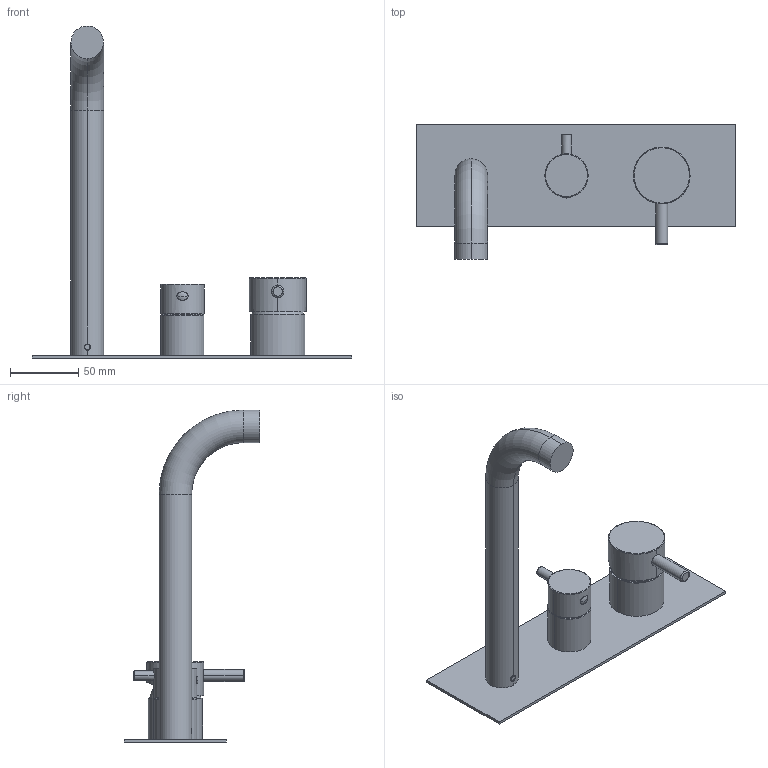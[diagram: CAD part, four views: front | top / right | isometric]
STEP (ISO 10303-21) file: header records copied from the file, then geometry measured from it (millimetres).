
FILE_DESCRIPTION((''),'2;1');
FILE_NAME('12528AV2_SW0001','2025-02-26T16:20:40',('carloff'),(''),'CREO PARAMETRIC BY PTC INC, 2022014','CREO PARAMETRIC BY PTC INC, 2022014','');
FILE_SCHEMA(('CONFIG_CONTROL_DESIGN'));
Length unit declared in the file: millimetre
Products named in the file (1): 12528AV2_SW0001
Bounding box: 235 x 99.5 x 244 mm (x, y, z)
Volume: 258864 mm3; surface area: 78878.4 mm2
Topology: 1 solids, 1 shells, 193 faces, 492 edges, 307 vertices
Faces by surface type: plane 88, cylinder 55, cone 18, torus 16, bspline 14, sphere 2
Entity records: 10810 total; most frequent: CARTESIAN_POINT 6223, ORIENTED_EDGE 972, DIRECTION 906, EDGE_CURVE 486, AXIS2_PLACEMENT_3D 324, VERTEX_POINT 307, VECTOR 258, LINE 258
